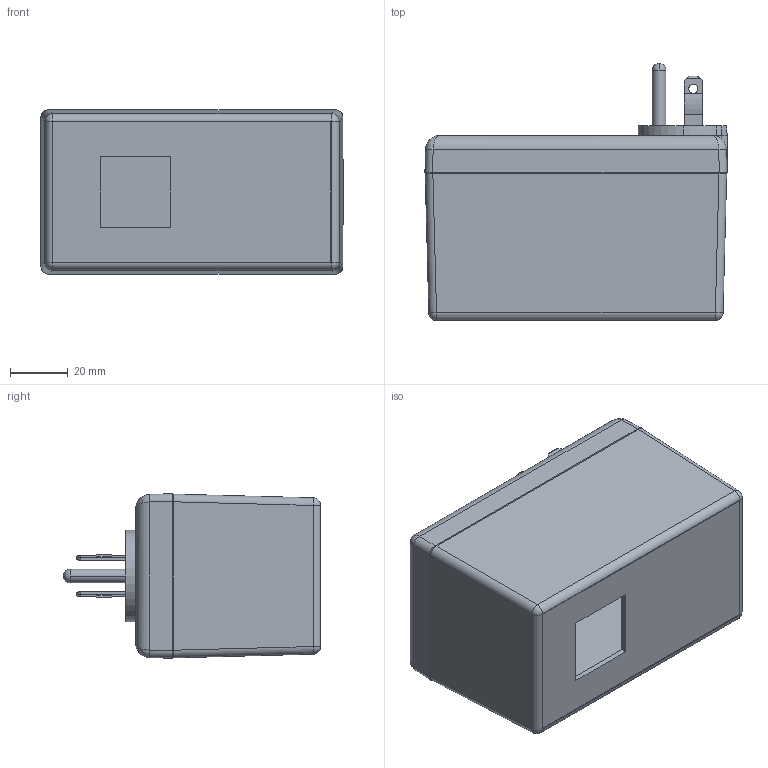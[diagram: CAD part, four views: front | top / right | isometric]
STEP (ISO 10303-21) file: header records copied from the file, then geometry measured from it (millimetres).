
FILE_DESCRIPTION (( 'STEP AP214' ), '1' );
FILE_NAME ('PM2425R13XNT.STEP', '2010-07-15T14:17:26', ( '' ), ( '' ), 'SwSTEP 2.0', 'SolidWorks 2010', '' );
FILE_SCHEMA (( 'AUTOMOTIVE_DESIGN' ));
Length unit declared in the file: inch
Products named in the file (10): TS-2420B AND PM2420_PM2420R1; B2405 ASS''Y_B24053XNT; MPB2405_MPB24053NT; GND-PIN; BLADES; WELD DISC-PS-BK; GND-TAB; SCREWS-HL1-BR; B2405-PCB; PM2425R13XNT
Assembly tree (13 placements, depth 3):
  PM2425R13XNT
    B2405-PCB
    SCREWS-HL1-BR  x4
    B2405 ASS''Y_B24053XNT
      WELD DISC-PS-BK
      MPB2405_MPB24053NT
      BLADES  x2
      GND-PIN
      GND-TAB
    TS-2420B AND PM2420_PM2420R1
Bounding box: 104.6 x 89.03 x 56.95 mm (x, y, z)
Volume: 87076.9 mm3; surface area: 82163.2 mm2
Topology: 12 solids, 12 shells, 959 faces, 2668 edges, 1743 vertices
Faces by surface type: cylinder 522, plane 306, cone 77, bspline 28, sphere 14, torus 12
Entity records: 20795 total; most frequent: CARTESIAN_POINT 6580, ORIENTED_EDGE 3054, DIRECTION 2747, EDGE_CURVE 1527, VERTEX_POINT 993, AXIS2_PLACEMENT_3D 985, VECTOR 777, LINE 777
